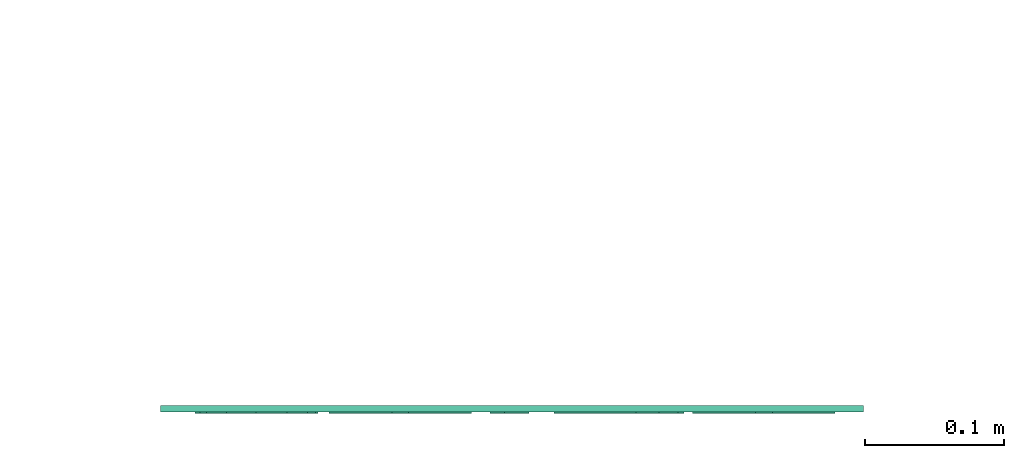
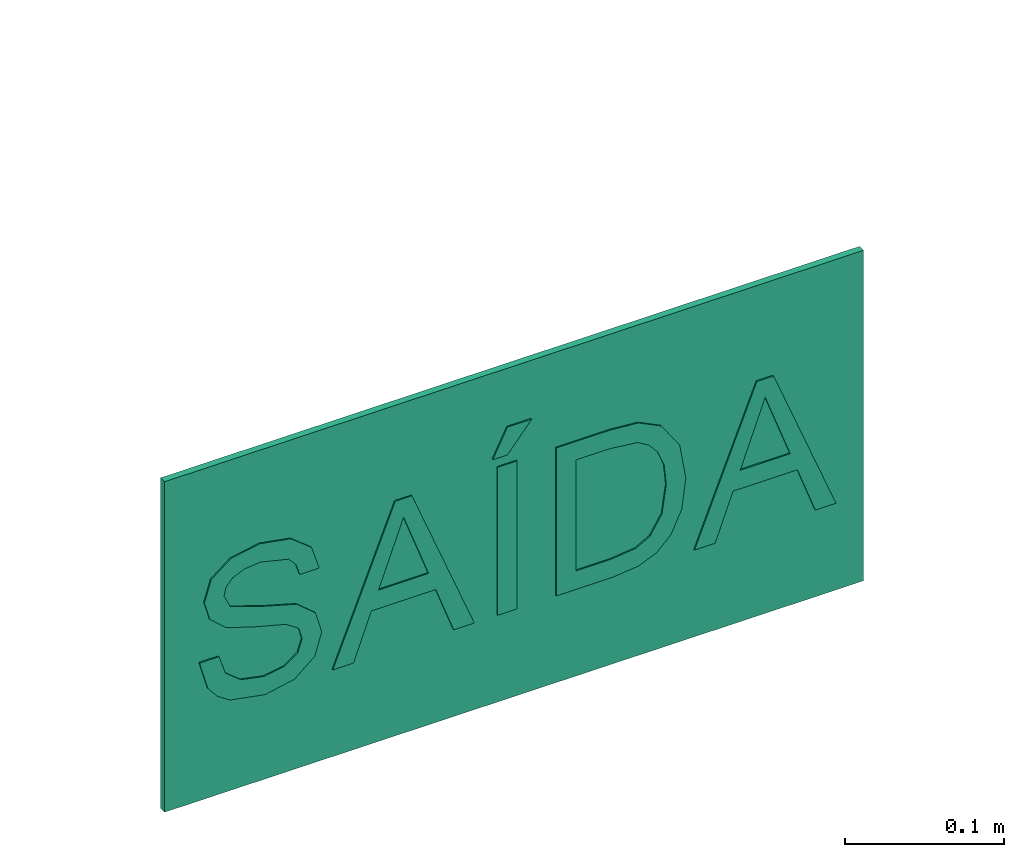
# One storey, part 1 of 9: 1 flow terminal.
"""IFC2X3 building model written with IfcOpenShell, lengths in metres."""

from ifc_helpers import new_model, entity, si_unit, converted_unit, derived_unit, direction, frame, origin, origin_2d_with_axis, place, context, subcontext, project, spatial, polyline, rectangle, outline, extrude, source, transform, mapped, material, material_list, type_object, type_shapes, element, save


model = new_model("IFC2X3")

# Units and contexts
model_context = context("Model", 3, precision=1e-05, world=origin(), true_north=direction((6.12303176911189e-17, 1.0)))
body_context = subcontext(model_context, "Body", "Model", "MODEL_VIEW")
ifc_project = project(units=[si_unit("LENGTHUNIT", "METRE"), si_unit("AREAUNIT", "SQUARE_METRE"), si_unit("VOLUMEUNIT", "CUBIC_METRE"), converted_unit("PLANEANGLEUNIT", "DEGREE", entity("IfcRatioMeasure", 0.0174532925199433), si_unit("PLANEANGLEUNIT", "RADIAN"), dimensions=[0, 0, 0, 0, 0, 0, 0]), si_unit("MASSUNIT", "GRAM", prefix="KILO"), derived_unit("MASSDENSITYUNIT", [(si_unit("MASSUNIT", "GRAM", prefix="KILO"), 1), (si_unit("LENGTHUNIT", "METRE"), -3)]), derived_unit("MOMENTOFINERTIAUNIT", [(si_unit("LENGTHUNIT", "METRE"), 4)]), si_unit("TIMEUNIT", "SECOND"), si_unit("FREQUENCYUNIT", "HERTZ"), si_unit("THERMODYNAMICTEMPERATUREUNIT", "DEGREE_CELSIUS"), derived_unit("THERMALTRANSMITTANCEUNIT", [(si_unit("MASSUNIT", "GRAM", prefix="KILO"), 1), (si_unit("THERMODYNAMICTEMPERATUREUNIT", "KELVIN"), -1), (si_unit("TIMEUNIT", "SECOND"), -3)]), derived_unit("VOLUMETRICFLOWRATEUNIT", [(si_unit("LENGTHUNIT", "METRE"), 3), (si_unit("TIMEUNIT", "SECOND"), -1)]), si_unit("ELECTRICCURRENTUNIT", "AMPERE"), si_unit("ELECTRICVOLTAGEUNIT", "VOLT"), si_unit("POWERUNIT", "WATT"), si_unit("FORCEUNIT", "NEWTON", prefix="KILO"), si_unit("ILLUMINANCEUNIT", "LUX"), si_unit("LUMINOUSFLUXUNIT", "LUMEN"), si_unit("LUMINOUSINTENSITYUNIT", "CANDELA"), derived_unit("USERDEFINED", [(si_unit("MASSUNIT", "GRAM", prefix="KILO"), -1), (si_unit("LENGTHUNIT", "METRE"), -2), (si_unit("TIMEUNIT", "SECOND"), 3), (si_unit("LUMINOUSFLUXUNIT", "LUMEN"), 1)]), derived_unit("LINEARVELOCITYUNIT", [(si_unit("LENGTHUNIT", "METRE"), 1), (si_unit("TIMEUNIT", "SECOND"), -1)]), si_unit("PRESSUREUNIT", "PASCAL"), derived_unit("USERDEFINED", [(si_unit("LENGTHUNIT", "METRE"), -2), (si_unit("MASSUNIT", "GRAM", prefix="KILO"), 1), (si_unit("TIMEUNIT", "SECOND"), -2)]), derived_unit("LINEARFORCEUNIT", [(si_unit("MASSUNIT", "GRAM", prefix="KILO"), 1), (si_unit("LENGTHUNIT", "METRE"), 1), (si_unit("TIMEUNIT", "SECOND"), -2), (si_unit("LENGTHUNIT", "METRE"), -1)]), derived_unit("PLANARFORCEUNIT", [(si_unit("MASSUNIT", "GRAM", prefix="KILO"), 1), (si_unit("LENGTHUNIT", "METRE"), 1), (si_unit("TIMEUNIT", "SECOND"), -2), (si_unit("LENGTHUNIT", "METRE"), -2)])], contexts=[model_context])

# Site, building, storey
site_placement = place(None, origin())
site = spatial("IfcSite", under=ifc_project, at=site_placement, Name="Default", CompositionType="ELEMENT")
building_placement = place(site_placement, origin())
building = spatial("IfcBuilding", under=site, at=building_placement, Name="C.L. MONSENHOR ANTÔNIO SAMPAIO", CompositionType="ELEMENT")
storey_placement = place(building_placement, origin())
storey = spatial("IfcBuildingStorey", under=building, at=storey_placement, Name="TÉRREO", CompositionType="ELEMENT", Elevation=0.0)

# Flow terminal
ifc_material_1 = material(Name="Branco")
ifc_material_2 = material(Name="VERDE")
ifc_material_list = material_list([ifc_material_1, ifc_material_2])
distribution_element_type = type_object("IfcDistributionElementType", Name="S12:10 metros", material=ifc_material_1)
shared_shape = source(origin(), body_context, "Body", "SweptSolid", [
    extrude(outline(polyline([(-0.0443068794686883, 0.0183286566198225), (-0.0301530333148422, 0.0183286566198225), (-0.0255917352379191, 0.0324963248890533), (-0.0144511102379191, 0.041453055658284), (0.00252244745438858, 0.0448671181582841), (0.0173121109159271, 0.042282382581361), (0.0268631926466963, 0.0351778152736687), (0.030000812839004, 0.0256820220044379), (0.0276510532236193, 0.0168496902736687), (0.0180308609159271, 0.0104224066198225), (-0.0025779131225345, 0.00501795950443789), (-0.0247624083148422, -0.00196220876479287), (-0.0368014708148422, -0.0124946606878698), (-0.0407684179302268, -0.0265655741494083), (-0.0358615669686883, -0.0425854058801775), (-0.0215280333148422, -0.0538918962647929), (-0.000546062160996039, -0.0577482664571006), (0.0218457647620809, -0.0537122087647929), (0.0367736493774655, -0.0418528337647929), (0.0423854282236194, -0.024132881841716), (0.0282315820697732, -0.024132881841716), (0.0256330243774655, -0.032578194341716), (0.0202147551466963, -0.0386737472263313), (6.82245438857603e-06, -0.0435944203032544), (-0.0120115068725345, -0.0423780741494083), (-0.0202563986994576, -0.0387290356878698), (-0.0250250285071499, -0.0333591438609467), (-0.0266145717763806, -0.0269802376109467), (-0.022108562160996, -0.0171665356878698), (0.00100201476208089, -0.00926028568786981), (0.026047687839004, -0.0021557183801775), (0.0397454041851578, 0.00931663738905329), (0.0441546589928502, 0.0253226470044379), (0.0390819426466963, 0.0422547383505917), (0.0244857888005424, 0.0546117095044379), (0.00307533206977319, 0.0590209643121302), (-0.0222053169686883, 0.0542661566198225), (-0.0312968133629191, 0.0483088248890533), (-0.0381975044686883, 0.039946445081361), (-0.0443068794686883, 0.0183286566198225)])), frame((-0.183923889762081, -0.006, 0.124397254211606), z_axis=(0.0, 1.0, 0.0), x_axis=(1.0, 0.0, 0.0)), (0.0, 0.0, 1.0), 0.006),
    extrude(outline(polyline([(-0.0534954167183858, -0.0337974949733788), (0.0684229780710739, -0.0337974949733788), (0.0728912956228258, -0.0226034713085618), (-0.0155147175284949, 0.0613517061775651), (-0.0210591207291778, 0.0474618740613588), (0.00699755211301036, 0.0223025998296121), (-0.0102915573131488, -0.0210100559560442), (-0.0479510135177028, -0.0199076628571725), (-0.0534954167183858, -0.0337974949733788)]), holes=[polyline([(0.00478042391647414, -0.0214304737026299), (0.0182263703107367, 0.0122542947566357), (0.0402987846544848, -0.00753972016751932), (0.0575118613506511, -0.0229532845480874), (0.0370034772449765, -0.0223570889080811), (0.00478042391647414, -0.0214304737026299)])]), frame((-0.0805034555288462, -0.006, 0.104299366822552), z_axis=(0.0, 1.0, 0.0), x_axis=(0.370725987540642, 0.0, 0.92874229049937)), (0.0, 0.0, 1.0), 0.006),
    extrude(outline(polyline([(-0.0150332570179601, -0.00632979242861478), (0.00870346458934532, -0.00632979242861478), (0.0166157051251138, 0.00949468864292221), (-0.010285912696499, 0.00316489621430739), (-0.0150332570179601, -0.00632979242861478)])), frame((-0.00353846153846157, -0.006, 0.198068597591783), z_axis=(0.0, 1.0, 0.0), x_axis=(0.447213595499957, 0.0, 0.894427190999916)), (0.0, 0.0, 1.0), 0.006),
    extrude(outline(polyline([(-0.0537288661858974, -0.0586552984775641), (0.0595019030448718, -0.0586552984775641), (0.0595019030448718, -0.019594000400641), (0.0578708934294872, 0.000613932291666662), (0.0497711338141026, 0.0172557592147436), (0.0304201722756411, 0.0306632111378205), (0.00349469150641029, 0.0351139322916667), (-0.019353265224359, 0.0321007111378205), (-0.0358430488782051, 0.0243603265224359), (-0.0461128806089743, 0.0140213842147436), (-0.0517937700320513, 0.000489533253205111), (-0.0537288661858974, -0.0177141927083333), (-0.0537288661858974, -0.0586552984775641)]), holes=[polyline([(-0.0395750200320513, -0.0445014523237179), (-0.0395750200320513, -0.0194557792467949), (-0.0375293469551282, -0.00123823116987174), (-0.031751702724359, 0.00926657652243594), (-0.0176946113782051, 0.0178777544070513), (0.00371584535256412, 0.0209600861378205), (0.0191413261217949, 0.0194500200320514), (0.030530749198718, 0.0149198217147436), (0.0383540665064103, 0.00822646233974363), (0.0430812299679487, 0.000226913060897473), (0.0453480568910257, -0.0198427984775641), (0.0453480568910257, -0.0445014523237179), (-0.0395750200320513, -0.0445014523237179)])]), frame((0.0887322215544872, -0.006, 0.120874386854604), z_axis=(0.0, 1.0, 0.0), x_axis=(0.0, 0.0, 1.0)), (0.0, 0.0, 1.0), 0.006),
    extrude(outline(polyline([(-0.0534954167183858, -0.0337974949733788), (0.0684229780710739, -0.0337974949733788), (0.0728912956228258, -0.0226034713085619), (-0.0155147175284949, 0.0613517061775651), (-0.0210591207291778, 0.0474618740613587), (0.00699755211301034, 0.0223025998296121), (-0.0102915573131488, -0.0210100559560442), (-0.0479510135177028, -0.0199076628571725), (-0.0534954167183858, -0.0337974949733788)]), holes=[polyline([(0.00478042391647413, -0.0214304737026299), (0.0182263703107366, 0.0122542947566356), (0.0402987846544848, -0.00753972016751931), (0.0575118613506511, -0.0229532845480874), (0.0370034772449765, -0.0223570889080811), (0.00478042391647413, -0.0214304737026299)])]), frame((0.181342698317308, -0.006, 0.104299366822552), z_axis=(0.0, 1.0, 0.0), x_axis=(0.370725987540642, 0.0, 0.92874229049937)), (0.0, 0.0, 1.0), 0.006),
    extrude(rectangle(XDim=0.006, YDim=0.0141538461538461, at=origin_2d_with_axis()), frame((-0.00530769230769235, -0.003, 0.0671455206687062), z_axis=(0.0, 0.0, 1.0), x_axis=(0.0, 1.0, 0.0)), (0.0, 0.0, 1.0), 0.113230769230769),
    extrude(rectangle(XDim=0.005, YDim=0.505999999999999, at=origin_2d_with_axis()), frame((0.0, -0.0025, 0.0), z_axis=(0.0, 0.0, 1.0), x_axis=(0.0, 1.0, 0.0)), (0.0, 0.0, 1.0), 0.252999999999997),
])
type_shapes(distribution_element_type, [shared_shape])
flow_terminal_placement = place(building_placement, frame((-1.25055229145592, -39.4380663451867, 0.0)))
element("IfcFlowTerminal", 1, at=flow_terminal_placement, inside=storey, type_object=distribution_element_type, material=ifc_material_list, Name="S12:10 metros", ObjectType="S12:10 metros", context=body_context, shape_type="MappedRepresentation", body=[
    mapped(shared_shape, transform((0.0, 0.0, 0.0), scale=1.0)),
])

save(model, "model.ifc")
